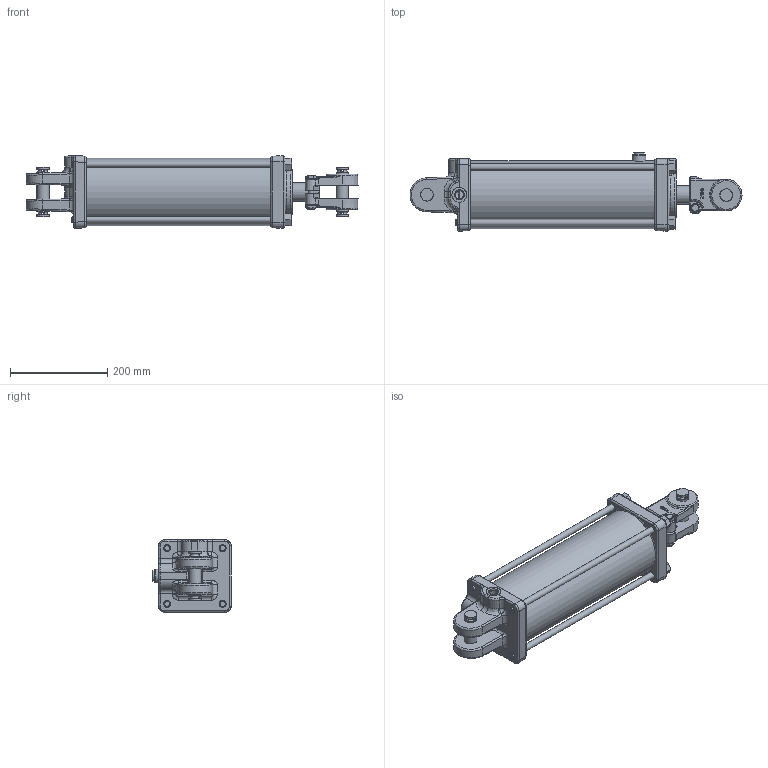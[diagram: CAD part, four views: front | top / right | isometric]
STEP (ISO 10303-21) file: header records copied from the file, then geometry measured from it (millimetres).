
FILE_DESCRIPTION((''),'2;1');
FILE_NAME('\\SRVR-ENG\EngSales\PMS-AM-2534.stp','2013-01-28T14:34:55',('KneiflD'),(''),'Autodesk Inventor 2012','Autodesk Inventor 2012','');
FILE_SCHEMA(('AUTOMOTIVE_DESIGN { 1 0 10303 214 1 1 1 1 }'));
Length unit declared in the file: inch
Products named in the file (20): PMS-AM-2534; 062100546; 052100513; 200300181V; 142100020V; 082100293V; 082100292V; 210800205V; 010800566; 100000326; 100000325; 170002105; 220000223; 072100373V; 220000211; 170301176; 220000107V; 200300104V; 190400004V
Assembly tree (23 placements, depth 3):
  PMS-AM-2534
    062100546
      052100513
      200300181V
    142100020V
    082100293V
      082100292V
      210800205V
    010800566
    100000326
      100000325
      170002105
      220000223
    072100373V
    220000211
    170301176  x4
      170301176
      220000107V
    200300104V
    190400004V  x2
Bounding box: 683.35 x 160.97 x 149.22 mm (x, y, z)
Volume: 4277972.7 mm3; surface area: 791879.4 mm2
Topology: 22 solids, 22 shells, 819 faces, 1872 edges, 1101 vertices
Faces by surface type: plane 241, cylinder 211, bspline 166, cone 129, torus 60, sphere 12
Full cylindrical faces by diameter (mm): 1.524 x1, 2.769 x1, 5.156 x2, 5.159 x2, 9.144 x1, 11.113 x1, 11.906 x2, 12.7 x4, 14.351 x4, 14.529 x4, 16.272 x4, 17.066 x3, 17.463 x1, 17.501 x4, 19.05 x1, 22.352 x1, 25.4 x6, 25.781 x4, 26.289 x1, 28.524 x1, 28.575 x1, 28.651 x1, 30.429 x3, 37.897 x1, 38.075 x2, 38.1 x1, 38.354 x1, 40.538 x1, 41.148 x1, 42.057 x2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
Entity records: 25007 total; most frequent: CARTESIAN_POINT 9387, DIRECTION 3080, ORIENTED_EDGE 2996, EDGE_CURVE 1498, AXIS2_PLACEMENT_3D 1299, VERTEX_POINT 954, EDGE_LOOP 928, FACE_OUTER_BOUND 722
